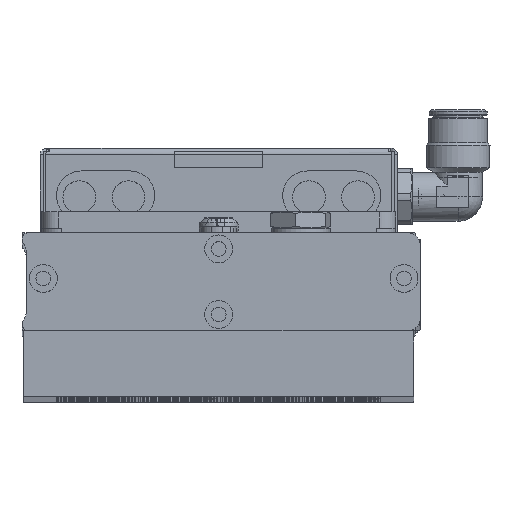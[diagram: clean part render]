
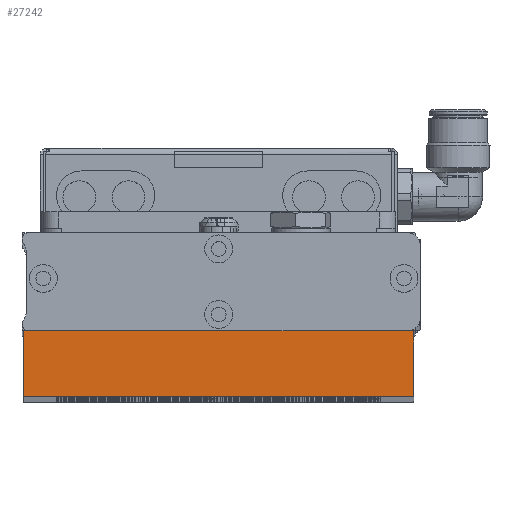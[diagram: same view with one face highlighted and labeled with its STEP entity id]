
A CAD part, top view. The second image highlights one B-rep face of the part: STEP entity #27242.
In plain terms, the highlighted planar face has unit normal (0, 0, 1).
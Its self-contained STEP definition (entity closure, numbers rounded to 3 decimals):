
#333 = CARTESIAN_POINT ( 'NONE',  ( -82.6, -71.3, 502. ) ) ;
#512 = VERTEX_POINT ( 'NONE', #39050 ) ;
#1475 = VECTOR ( 'NONE', #39853, 1000. ) ;
#1524 = LINE ( 'NONE', #34539, #24846 ) ;
#2890 = DIRECTION ( 'NONE',  ( 0., -1., 0. ) ) ;
#4253 = PLANE ( 'NONE',  #15620 ) ;
#7371 = DIRECTION ( 'NONE',  ( 0., 1., 0. ) ) ;
#8272 = LINE ( 'NONE', #36708, #1475 ) ;
#8539 = LINE ( 'NONE', #24907, #10911 ) ;
#8988 = VERTEX_POINT ( 'NONE', #19239 ) ;
#10770 = EDGE_CURVE ( 'NONE', #35560, #8988, #8539, .T. ) ;
#10911 = VECTOR ( 'NONE', #2890, 1000. ) ;
#12896 = ORIENTED_EDGE ( 'NONE', *, *, #22094, .T. ) ;
#13886 = ORIENTED_EDGE ( 'NONE', *, *, #34171, .F. ) ;
#15620 = AXIS2_PLACEMENT_3D ( 'NONE', #25955, #23004, #7371 ) ;
#18143 = CARTESIAN_POINT ( 'NONE',  ( 36.4, -51.3, 502. ) ) ;
#18183 = ORIENTED_EDGE ( 'NONE', *, *, #19133, .T. ) ;
#19133 = EDGE_CURVE ( 'NONE', #28630, #8988, #8272, .T. ) ;
#19156 = EDGE_LOOP ( 'NONE', ( #18183, #22430, #13886, #12896 ) ) ;
#19239 = CARTESIAN_POINT ( 'NONE',  ( 36.4, -71.3, 502. ) ) ;
#20670 = FACE_OUTER_BOUND ( 'NONE', #19156, .T. ) ;
#20835 = CARTESIAN_POINT ( 'NONE',  ( -82.6, -51.3, 502. ) ) ;
#22094 = EDGE_CURVE ( 'NONE', #512, #28630, #1524, .T. ) ;
#22430 = ORIENTED_EDGE ( 'NONE', *, *, #10770, .F. ) ;
#23004 = DIRECTION ( 'NONE',  ( 0., 0., -1. ) ) ;
#23936 = DIRECTION ( 'NONE',  ( 1., 0., 0. ) ) ;
#24846 = VECTOR ( 'NONE', #25651, 1000. ) ;
#24907 = CARTESIAN_POINT ( 'NONE',  ( 36.4, -51.3, 502. ) ) ;
#25651 = DIRECTION ( 'NONE',  ( 0., -1., 0. ) ) ;
#25955 = CARTESIAN_POINT ( 'NONE',  ( -82.6, -51.3, 502. ) ) ;
#27242 = ADVANCED_FACE ( 'NONE', ( #20670 ), #4253, .F. ) ;
#28630 = VERTEX_POINT ( 'NONE', #333 ) ;
#32672 = VECTOR ( 'NONE', #23936, 1000. ) ;
#34171 = EDGE_CURVE ( 'NONE', #512, #35560, #37504, .T. ) ;
#34539 = CARTESIAN_POINT ( 'NONE',  ( -82.6, -51.3, 502. ) ) ;
#35560 = VERTEX_POINT ( 'NONE', #18143 ) ;
#36708 = CARTESIAN_POINT ( 'NONE',  ( -82.6, -71.3, 502. ) ) ;
#37504 = LINE ( 'NONE', #20835, #32672 ) ;
#39050 = CARTESIAN_POINT ( 'NONE',  ( -82.6, -51.3, 502. ) ) ;
#39853 = DIRECTION ( 'NONE',  ( 1., 0., 0. ) ) ;
